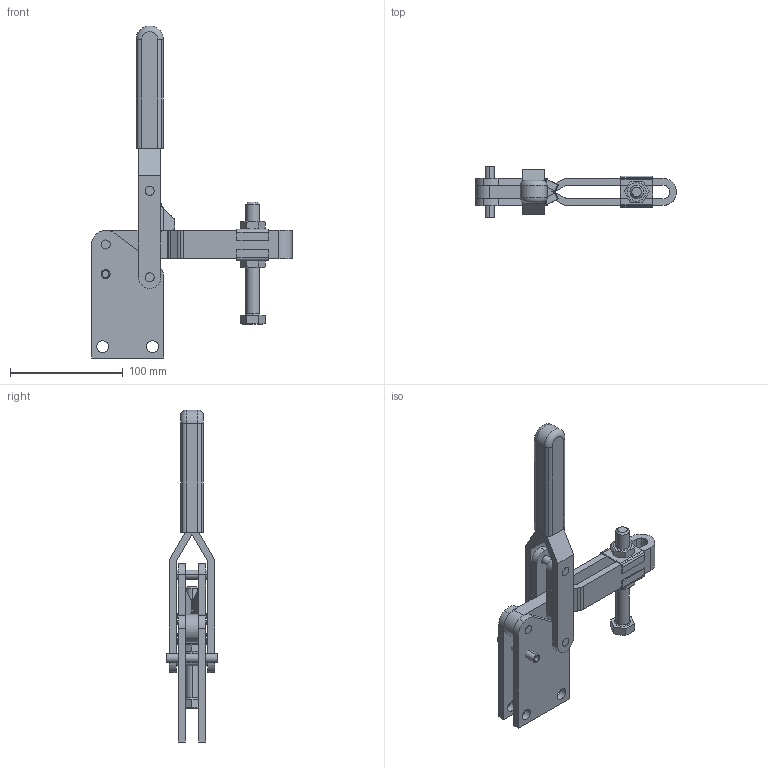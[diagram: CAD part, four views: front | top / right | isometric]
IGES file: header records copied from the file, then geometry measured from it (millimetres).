
Start section:  Level              Description ========  ================================        1  SANDFIELD
Global section: file name: D:/WORK/SANDFIELD/sandfield_3d/Vertical_Action/MG/Mg1/mg1u.IGS; native system: AutoCAD-13_c4a_Mh (HwLock) (Microsoft Windows NT Version 4.0 (x86)); preprocessor: AutoCAD IGES Translator R13.1c2 (Jan 23 1997) from Autodesk, Inc.; author: ProCAD; organization: Sandfield Eng Co.; date: 990520.143515; units: millimetre
Bounding box: 177.98 x 45 x 294 mm (x, y, z)
Volume: 271289.5 mm3; surface area: 104283.6 mm2
Topology: 17 solids, 17 shells, 276 faces, 723 edges, 482 vertices
Faces by surface type: bspline 109, plane 83, cylinder 74, torus 8, cone 2
